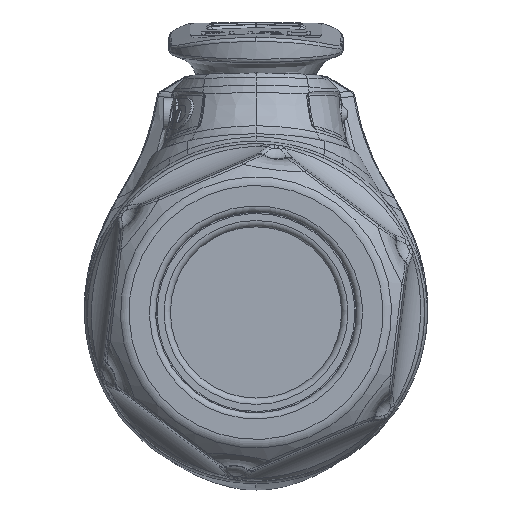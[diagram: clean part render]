
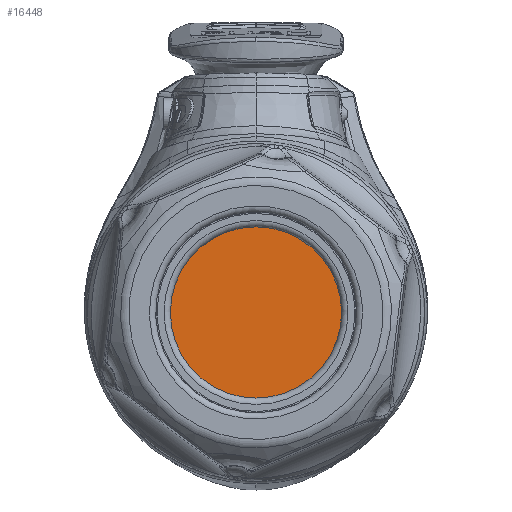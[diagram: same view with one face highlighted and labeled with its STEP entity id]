
A CAD part, front view. The second image highlights one B-rep face of the part: STEP entity #16448.
In plain terms, the highlighted planar face has unit normal (0, -1, 0).
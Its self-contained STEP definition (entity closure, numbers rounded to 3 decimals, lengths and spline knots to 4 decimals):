
#6783 = CARTESIAN_POINT ( 'NONE',  ( 0., -57.6964, 0. ) ) ;
#10692 = CARTESIAN_POINT ( 'NONE',  ( -6.75, -57.6964, 0. ) ) ;
#11418 = CIRCLE ( 'NONE', #49184, 6.75 ) ;
#13612 = DIRECTION ( 'NONE',  ( 0., 1., 0. ) ) ;
#16448 = ADVANCED_FACE ( 'NONE', ( #34435 ), #82703, .F. ) ;
#20773 = DIRECTION ( 'NONE',  ( -1., 0., 0. ) ) ;
#21694 = CARTESIAN_POINT ( 'NONE',  ( 0., -57.6964, 0. ) ) ;
#22273 = DIRECTION ( 'NONE',  ( -1., 0., 0. ) ) ;
#23164 = EDGE_LOOP ( 'NONE', ( #41843 ) ) ;
#31916 = AXIS2_PLACEMENT_3D ( 'NONE', #21694, #49004, #20773 ) ;
#34435 = FACE_OUTER_BOUND ( 'NONE', #23164, .T. ) ;
#38913 = VERTEX_POINT ( 'NONE', #10692 ) ;
#41843 = ORIENTED_EDGE ( 'NONE', *, *, #45425, .F. ) ;
#45425 = EDGE_CURVE ( 'NONE', #38913, #38913, #11418, .T. ) ;
#49004 = DIRECTION ( 'NONE',  ( 0., 1., 0. ) ) ;
#49184 = AXIS2_PLACEMENT_3D ( 'NONE', #6783, #13612, #22273 ) ;
#82703 = PLANE ( 'NONE',  #31916 ) ;
